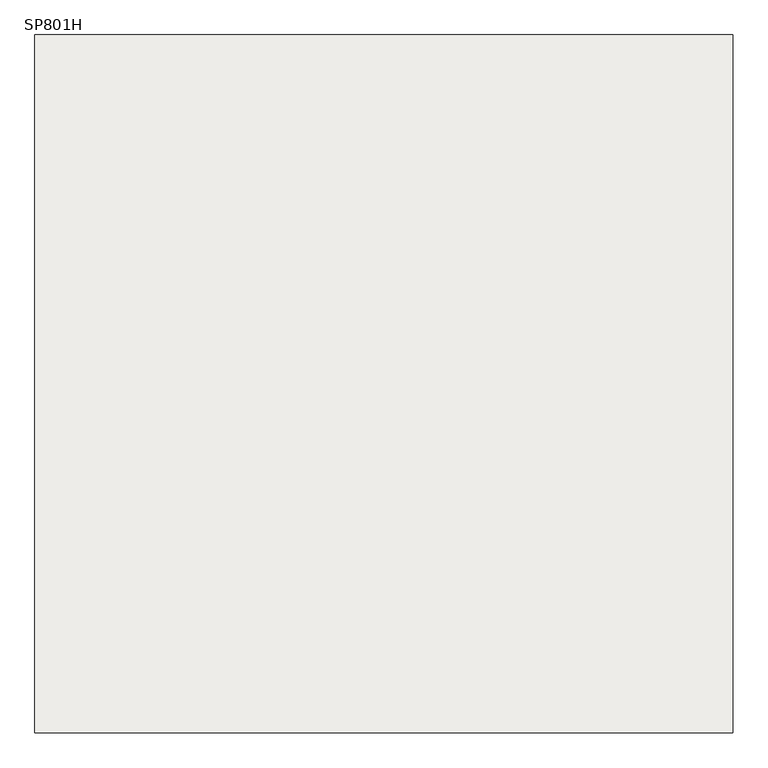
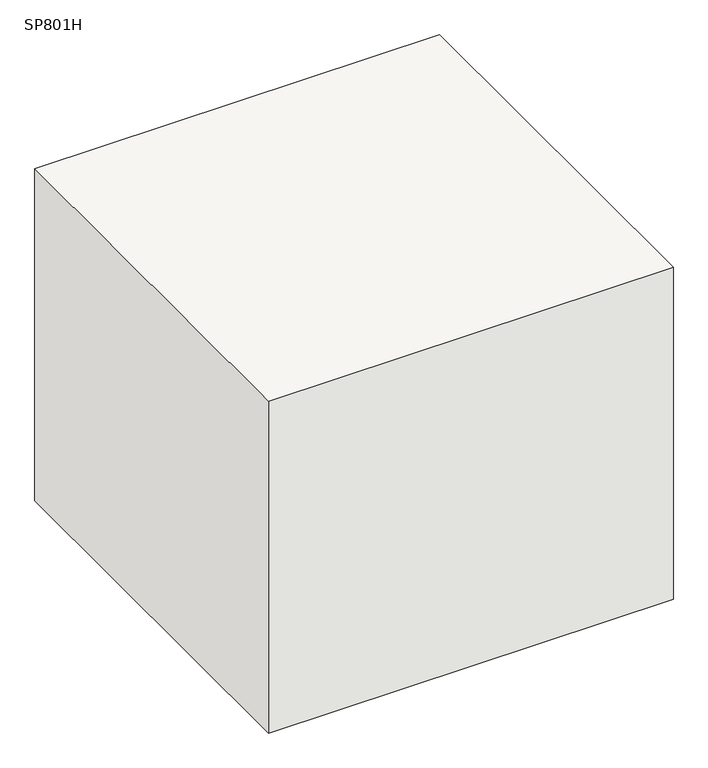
"""IFC4 building model written with IfcOpenShell, lengths in millimetres: slab geometry, 柱形_SP : SP801H."""

from ifc_helpers import new_model, si_unit, frame, origin, place, context, project, spatial, polyline, outline, extrude, source, transform, mapped, element, save


def sp801h_8423388f(model_context):
    return source(origin(), model_context, "Body", "SweptSolid", [
        extrude(outline(polyline([(750.0, 750.0), (750.0, -750.0), (-750.0, -750.0), (-750.0, 750.0), (750.0, 750.0)])), frame((0.0, 0.0, -1300.0), z_axis=(0.0, 0.0, 1.0), x_axis=(1.0, 0.0, 0.0)), (0.0, 0.0, 1.0), 1300.0),
    ])


if __name__ == "__main__":
    model = new_model("IFC4")
    model_context = context("Model", 3, world=origin())
    ifc_project = project(units=[si_unit("LENGTHUNIT", "METRE", prefix="MILLI")], contexts=[model_context])
    site = spatial("IfcSite", under=ifc_project)
    building = spatial("IfcBuilding", under=site)
    placement = place(None, origin())
    sp801h_shape = sp801h_8423388f(model_context)
    element("IfcSlab", 1, ObjectType="柱形_SP : SP801H", at=placement, inside=building, context=model_context, shape_type="MappedRepresentation", body=[
        mapped(sp801h_shape, transform((0.0, 0.0, 0.0), x_axis=(1.0, 0.0, 0.0), y_axis=(0.0, 1.0, 0.0), z_axis=(0.0, 0.0, 1.0))),
    ])
    save(model, "model.ifc")
